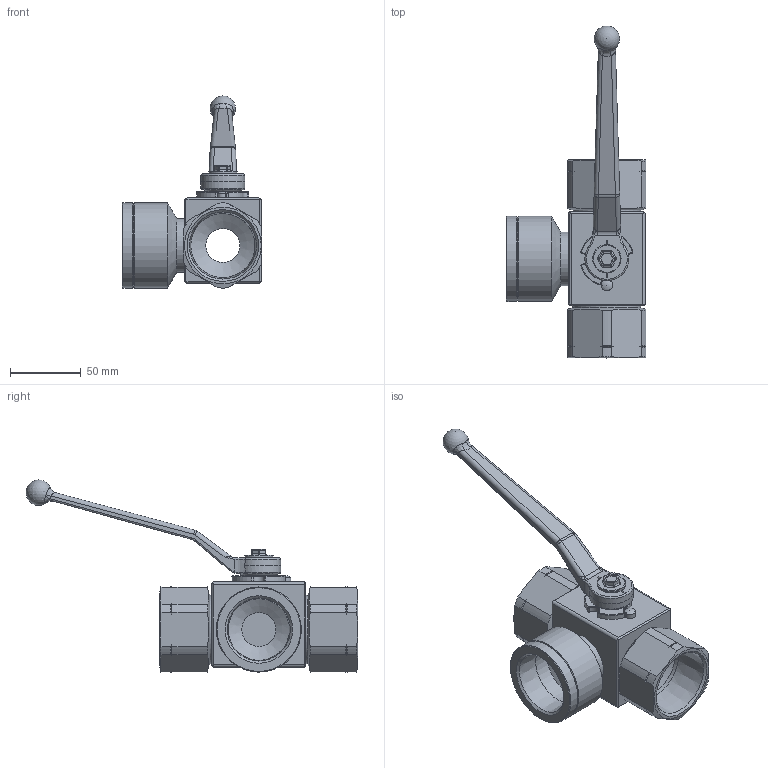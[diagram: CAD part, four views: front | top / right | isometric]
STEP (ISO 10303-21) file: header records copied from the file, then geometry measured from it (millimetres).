
FILE_DESCRIPTION( ( 'Unknown' ), '1' );
FILE_NAME( 'H:/PISTER/3D-MODELLE/BK3 stp/BK3 DN25 3_2 NPT.stp', 'Unknown', ( 'Unknown' ), ( 'Unknown' ), 'PSStep 14.0', 'Unknown', ' ' );
FILE_SCHEMA( ( 'AUTOMOTIVE_DESIGN { 1 0 10303 214 1 1 1 1 }' ) );
Length unit declared in the file: millimetre
Products named in the file (11): Assem1; 10-025-001; 06-025-186-oa7; 09-14-001; 58-28740-13-oa8; Griff_SW14; 58-0933-147; 04-025-010-oa9; 04-025-010-oa10; 01-025-024-oa11; 04-025-062-oa12
Assembly tree (10 placements, depth 2):
  Assem1
    10-025-001
    06-025-186-oa7
    09-14-001
    58-28740-13-oa8
    Griff_SW14
    58-0933-147
    04-025-010-oa9
    04-025-010-oa10
    01-025-024-oa11
    04-025-062-oa12
Bounding box: 98.5 x 233.68 x 135.4 mm (x, y, z)
Volume: 188363.8 mm3; surface area: 95053.8 mm2
Topology: 10 solids, 10 shells, 405 faces, 1033 edges, 639 vertices
Faces by surface type: cylinder 140, plane 128, cone 53, torus 42, bspline 28, sphere 14
Full cylindrical faces by diameter (mm): 5 x1, 6 x1, 6.5 x1, 7.98 x1, 20 x3, 20.2 x1, 24 x3, 25 x1, 37.8 x1, 38 x1, 43.3 x2, 43.439 x1, 45.207 x2, 48 x2, 50 x2, 51 x2, 60 x2
Entity records: 16554 total; most frequent: CARTESIAN_POINT 3948, DIRECTION 1979, ORIENTED_EDGE 1828, EDGE_CURVE 914, AXIS2_PLACEMENT_3D 813, VERTEX_POINT 603, EDGE_LOOP 498, FACE_OUTER_BOUND 443
